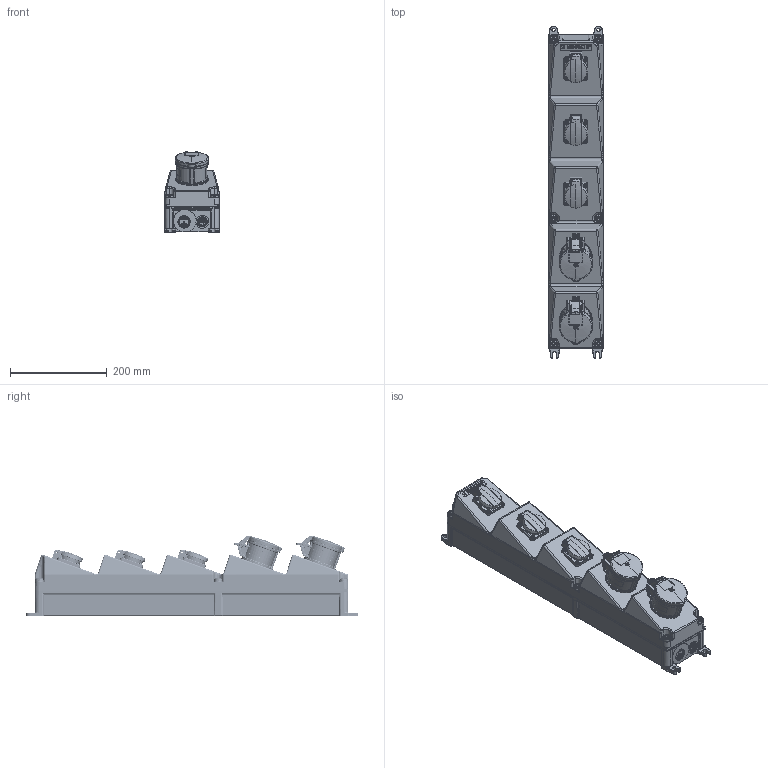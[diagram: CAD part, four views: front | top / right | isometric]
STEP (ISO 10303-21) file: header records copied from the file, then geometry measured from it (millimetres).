
FILE_DESCRIPTION((''),'2;1');
FILE_NAME('960008-2_ASM_1_ASM','2017-11-27T',('kremer'),('MENNEKES'),'PRO/ENGINEER BY PARAMETRIC TECHNOLOGY CORPORATION, 2015440','PRO/ENGINEER BY PARAMETRIC TECHNOLOGY CORPORATION, 2015440','');
FILE_SCHEMA(('AUTOMOTIVE_DESIGN { 1 0 10303 214 1 1 1 1 }'));
Products named in the file (4): S_SW_O_GRAU_1; RAPIDO_16_5_44_61_ROT_1; 4LOCH_SCHUKO_44_BLAU_1; 960008-2_ASM_1_ASM
Assembly tree (6 placements, depth 2):
  960008-2_ASM_1_ASM
    S_SW_O_GRAU_1
    RAPIDO_16_5_44_61_ROT_1  x2
    4LOCH_SCHUKO_44_BLAU_1  x3
Bounding box: 113.06 x 688.04 x 167.83 mm (x, y, z)
Volume: 7859715.7 mm3; surface area: 443826.7 mm2
Topology: 6 solids, 6 shells, 6198 faces, 16470 edges, 10256 vertices
Faces by surface type: cylinder 1905, plane 1772, bspline 998, torus 930, cone 335, sphere 178, extrusion 80
Entity records: 238621 total; most frequent: CARTESIAN_POINT 76611, ORIENTED_EDGE 24136, DIRECTION 20112, PRESENTATION_STYLE_ASSIGNMENT 14670, STYLED_ITEM 12118, CURVE_STYLE 12079, EDGE_CURVE 12068, AXIS2_PLACEMENT_3D 7684
